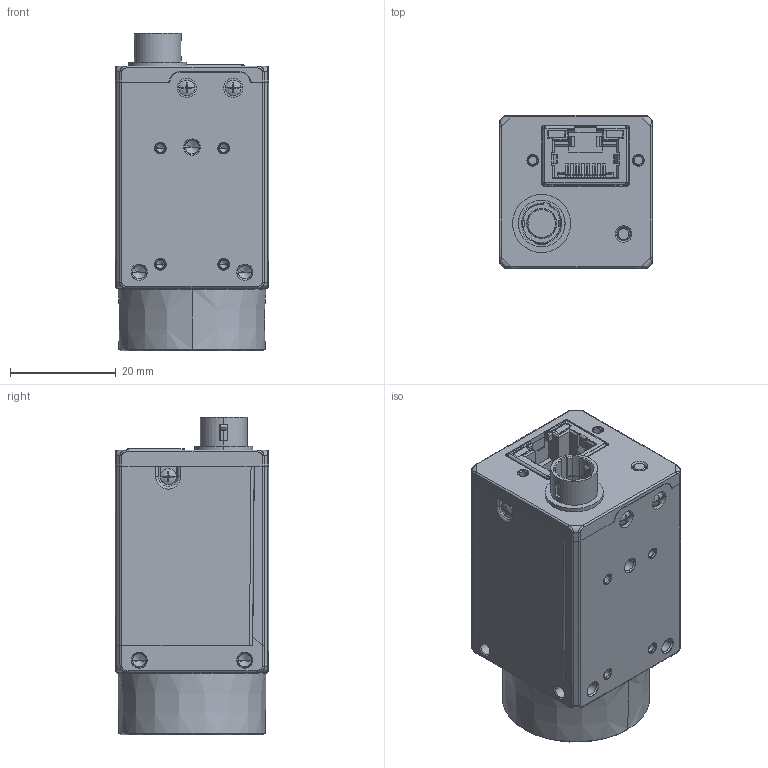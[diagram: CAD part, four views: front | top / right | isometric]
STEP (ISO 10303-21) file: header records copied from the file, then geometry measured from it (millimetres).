
FILE_DESCRIPTION((''),'2;1');
FILE_NAME('CS00','2024-09-23T21:16:08',('sunli10'),(''),'CREO PARAMETRIC BY PTC INC, 2020044','CREO PARAMETRIC BY PTC INC, 2020044','');
FILE_SCHEMA(('CONFIG_CONTROL_DESIGN'));
Products named in the file (1): CS00
Bounding box: 29.03 x 29 x 60.21 mm (x, y, z)
Volume: 33924.3 mm3; surface area: 22459.9 mm2
Topology: 6 solids, 66 shells, 2144 faces, 5808 edges, 3681 vertices
Faces by surface type: plane 1307, cylinder 626, cone 92, bspline 73, torus 28, sphere 18
Entity records: 75414 total; most frequent: CARTESIAN_POINT 21643, ORIENTED_EDGE 11340, DIRECTION 10883, EDGE_CURVE 5778, VECTOR 3989, LINE 3989, VERTEX_POINT 3681, AXIS2_PLACEMENT_3D 3447
